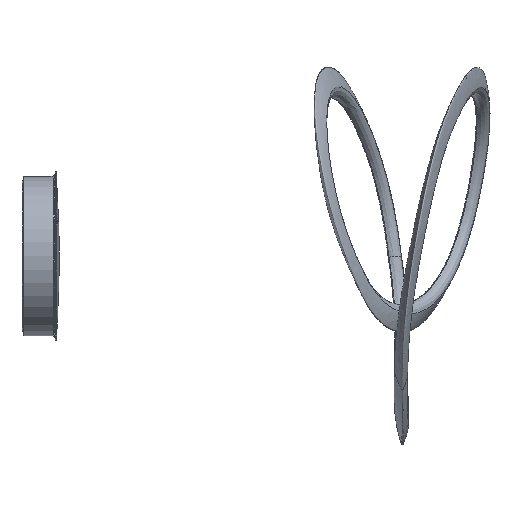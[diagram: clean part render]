
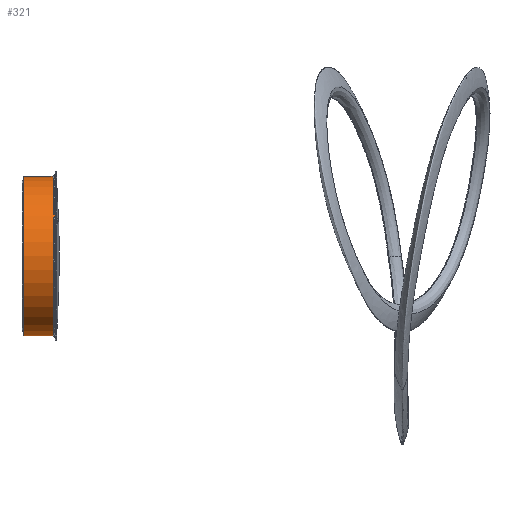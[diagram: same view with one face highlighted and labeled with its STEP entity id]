
A CAD part, left-side view. The second image highlights one B-rep face of the part: STEP entity #321.
In plain terms, the highlighted cylindrical face has radius 106 mm (diameter 212 mm), a partial arc.
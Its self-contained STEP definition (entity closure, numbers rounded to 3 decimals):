
#101 = DIRECTION ( 'NONE',  ( 0., 1., 0. ) ) ;
#130 = CARTESIAN_POINT ( 'NONE',  ( 0., 42., 106. ) ) ;
#219 = CARTESIAN_POINT ( 'NONE',  ( 0., 42., -106. ) ) ;
#319 = ORIENTED_EDGE ( 'NONE', *, *, #1006, .T. ) ;
#321 = ADVANCED_FACE ( 'NONE', ( #5024 ), #4729, .T. ) ;
#739 = ORIENTED_EDGE ( 'NONE', *, *, #1233, .F. ) ;
#1003 = DIRECTION ( 'NONE',  ( 0., -1., 0. ) ) ;
#1006 = EDGE_CURVE ( 'NONE', #3786, #5296, #3854, .T. ) ;
#1053 = CARTESIAN_POINT ( 'NONE',  ( 0., 0., 0. ) ) ;
#1233 = EDGE_CURVE ( 'NONE', #3786, #4015, #6279, .T. ) ;
#1323 = DIRECTION ( 'NONE',  ( 0., -1., 0. ) ) ;
#2182 = EDGE_CURVE ( 'NONE', #5296, #6351, #6216, .T. ) ;
#2248 = CARTESIAN_POINT ( 'NONE',  ( 0., 42., 106. ) ) ;
#2331 = EDGE_CURVE ( 'NONE', #4015, #6351, #5158, .T. ) ;
#2416 = DIRECTION ( 'NONE',  ( 0., 0., -1. ) ) ;
#2541 = AXIS2_PLACEMENT_3D ( 'NONE', #3953, #1323, #2416 ) ;
#2751 = VECTOR ( 'NONE', #1003, 1000. ) ;
#2759 = EDGE_LOOP ( 'NONE', ( #4547, #739, #319, #3267 ) ) ;
#2935 = DIRECTION ( 'NONE',  ( 0., -1., 0. ) ) ;
#3025 = CARTESIAN_POINT ( 'NONE',  ( 0., 0., 106. ) ) ;
#3126 = DIRECTION ( 'NONE',  ( 0., 0., 1. ) ) ;
#3267 = ORIENTED_EDGE ( 'NONE', *, *, #2182, .T. ) ;
#3507 = CARTESIAN_POINT ( 'NONE',  ( 0., 42., 0. ) ) ;
#3547 = DIRECTION ( 'NONE',  ( 0., 1., 0. ) ) ;
#3556 = DIRECTION ( 'NONE',  ( 0., 0., 1. ) ) ;
#3673 = CARTESIAN_POINT ( 'NONE',  ( 0., 42., -106. ) ) ;
#3786 = VERTEX_POINT ( 'NONE', #3673 ) ;
#3854 = LINE ( 'NONE', #219, #2751 ) ;
#3953 = CARTESIAN_POINT ( 'NONE',  ( 0., 42., 0. ) ) ;
#4015 = VERTEX_POINT ( 'NONE', #2248 ) ;
#4547 = ORIENTED_EDGE ( 'NONE', *, *, #2331, .F. ) ;
#4729 = CYLINDRICAL_SURFACE ( 'NONE', #2541, 106. ) ;
#5024 = FACE_OUTER_BOUND ( 'NONE', #2759, .T. ) ;
#5158 = LINE ( 'NONE', #130, #5294 ) ;
#5294 = VECTOR ( 'NONE', #2935, 1000. ) ;
#5296 = VERTEX_POINT ( 'NONE', #5897 ) ;
#5742 = AXIS2_PLACEMENT_3D ( 'NONE', #1053, #101, #3126 ) ;
#5897 = CARTESIAN_POINT ( 'NONE',  ( 0., 0., -106. ) ) ;
#6216 = CIRCLE ( 'NONE', #5742, 106. ) ;
#6279 = CIRCLE ( 'NONE', #6415, 106. ) ;
#6351 = VERTEX_POINT ( 'NONE', #3025 ) ;
#6415 = AXIS2_PLACEMENT_3D ( 'NONE', #3507, #3547, #3556 ) ;
